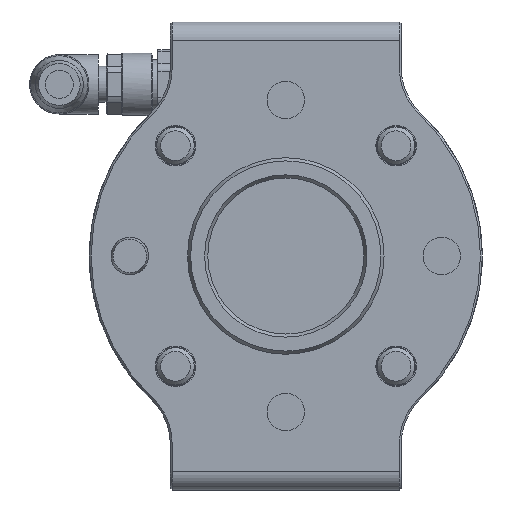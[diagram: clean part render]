
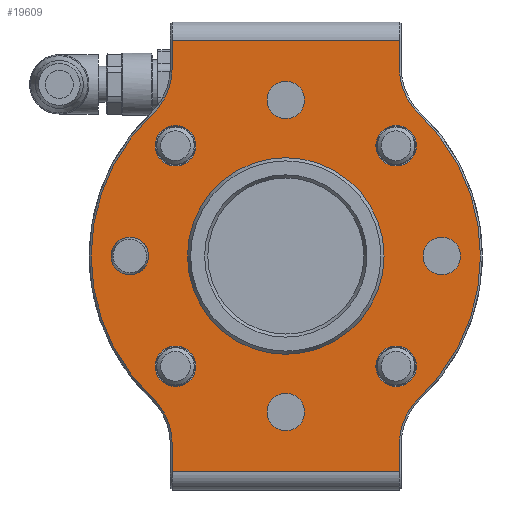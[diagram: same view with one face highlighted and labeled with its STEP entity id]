
A CAD part, left-side view. The second image highlights one B-rep face of the part: STEP entity #19609.
In plain terms, the highlighted planar face has unit normal (-1, 0, 0) as drawn and (0, 0, -1) by its records, which use the part's own axes.
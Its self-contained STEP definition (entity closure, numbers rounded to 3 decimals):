
#18860=CARTESIAN_POINT('',(-34.5,18.2,-11.0));
#18861=VERTEX_POINT('',#18860);
#18893=CARTESIAN_POINT('',(-30.166,18.2,-11.0));
#18894=VERTEX_POINT('',#18893);
#18901=CARTESIAN_POINT('',(-30.166,18.2,-11.0));
#18902=DIRECTION('',(-1.0,0.0,0.0));
#18903=VECTOR('',#18902,4.334);
#18904=LINE('',#18901,#18903);
#18905=EDGE_CURVE('',#18894,#18861,#18904,.T.);
#18922=CARTESIAN_POINT('',(-22.679,21.427,-11.0));
#18923=VERTEX_POINT('',#18922);
#18930=CARTESIAN_POINT('',(-30.166,28.5,-11.0));
#18931=DIRECTION('',(0.0,0.0,-1.0));
#18932=DIRECTION('',(0.396,-0.918,0.0));
#18933=AXIS2_PLACEMENT_3D('',#18930,#18931,#18932);
#18934=CIRCLE('',#18933,10.3);
#18935=EDGE_CURVE('',#18923,#18894,#18934,.T.);
#18953=CARTESIAN_POINT('',(22.679,21.427,-11.0));
#18954=VERTEX_POINT('',#18953);
#18961=CARTESIAN_POINT('',(0.0,0.0,-11.0));
#18962=DIRECTION('',(0.0,0.0,1.0));
#18963=DIRECTION('',(0.809,0.587,0.0));
#18964=AXIS2_PLACEMENT_3D('',#18961,#18962,#18963);
#18965=CIRCLE('',#18964,31.2);
#18966=EDGE_CURVE('',#18954,#18923,#18965,.T.);
#18980=CARTESIAN_POINT('',(30.166,18.2,-11.0));
#18981=VERTEX_POINT('',#18980);
#18988=CARTESIAN_POINT('',(30.166,28.5,-11.0));
#18989=DIRECTION('',(0.0,0.0,-1.));
#18990=DIRECTION('',(-0.396,-0.918,0.0));
#18991=AXIS2_PLACEMENT_3D('',#18988,#18989,#18990);
#18992=CIRCLE('',#18991,10.3);
#18993=EDGE_CURVE('',#18981,#18954,#18992,.T.);
#19013=CARTESIAN_POINT('',(34.5,18.2,-11.0));
#19014=VERTEX_POINT('',#19013);
#19021=CARTESIAN_POINT('',(34.5,18.2,-11.0));
#19022=DIRECTION('',(-1.0,0.0,0.0));
#19023=VECTOR('',#19022,4.334);
#19024=LINE('',#19021,#19023);
#19025=EDGE_CURVE('',#19014,#18981,#19024,.T.);
#19223=CARTESIAN_POINT('',(-34.5,-18.2,-11.0));
#19224=VERTEX_POINT('',#19223);
#19256=CARTESIAN_POINT('',(-30.166,-18.2,-11.0));
#19257=VERTEX_POINT('',#19256);
#19273=CARTESIAN_POINT('',(-34.5,-18.2,-11.0));
#19274=DIRECTION('',(1.0,0.0,0.0));
#19275=VECTOR('',#19274,4.334);
#19276=LINE('',#19273,#19275);
#19277=EDGE_CURVE('',#19224,#19257,#19276,.T.);
#19287=CARTESIAN_POINT('',(-22.679,-21.427,-11.0));
#19288=VERTEX_POINT('',#19287);
#19303=CARTESIAN_POINT('',(-30.166,-28.5,-11.0));
#19304=DIRECTION('',(0.0,0.0,-1.));
#19305=DIRECTION('',(0.396,0.918,0.0));
#19306=AXIS2_PLACEMENT_3D('',#19303,#19304,#19305);
#19307=CIRCLE('',#19306,10.3);
#19308=EDGE_CURVE('',#19257,#19288,#19307,.T.);
#19318=CARTESIAN_POINT('',(22.679,-21.427,-11.0));
#19319=VERTEX_POINT('',#19318);
#19328=CARTESIAN_POINT('',(0.0,0.0,-11.0));
#19329=DIRECTION('',(0.0,0.0,1.0));
#19330=DIRECTION('',(-0.809,-0.587,0.0));
#19331=AXIS2_PLACEMENT_3D('',#19328,#19329,#19330);
#19332=CIRCLE('',#19331,31.2);
#19333=EDGE_CURVE('',#19288,#19319,#19332,.T.);
#19343=CARTESIAN_POINT('',(30.166,-18.2,-11.0));
#19344=VERTEX_POINT('',#19343);
#19361=CARTESIAN_POINT('',(30.166,-28.5,-11.0));
#19362=DIRECTION('',(0.0,0.0,-1.0));
#19363=DIRECTION('',(-0.396,0.918,0.0));
#19364=AXIS2_PLACEMENT_3D('',#19361,#19362,#19363);
#19365=CIRCLE('',#19364,10.3);
#19366=EDGE_CURVE('',#19319,#19344,#19365,.T.);
#19376=CARTESIAN_POINT('',(34.5,-18.2,-11.0));
#19377=VERTEX_POINT('',#19376);
#19393=CARTESIAN_POINT('',(30.166,-18.2,-11.0));
#19394=DIRECTION('',(1.0,0.0,0.0));
#19395=VECTOR('',#19394,4.334);
#19396=LINE('',#19393,#19395);
#19397=EDGE_CURVE('',#19344,#19377,#19396,.T.);
#19477=CARTESIAN_POINT('',(34.5,-18.2,-11.0));
#19478=DIRECTION('',(0.0,1.0,0.0));
#19479=VECTOR('',#19478,36.4);
#19480=LINE('',#19477,#19479);
#19481=EDGE_CURVE('',#19377,#19014,#19480,.T.);
#19486=CARTESIAN_POINT('',(0.,0.,-11.0));
#19487=DIRECTION('',(0.0,0.0,1.0));
#19488=DIRECTION('',(1.0,0.0,0.0));
#19489=AXIS2_PLACEMENT_3D('',#19486,#19487,#19488);
#19490=PLANE('',#19489);
#19491=ORIENTED_EDGE('',*,*,#19025,.F.);
#19492=ORIENTED_EDGE('',*,*,#19481,.F.);
#19493=ORIENTED_EDGE('',*,*,#19397,.F.);
#19494=ORIENTED_EDGE('',*,*,#19366,.F.);
#19495=ORIENTED_EDGE('',*,*,#19333,.F.);
#19496=ORIENTED_EDGE('',*,*,#19308,.F.);
#19497=ORIENTED_EDGE('',*,*,#19277,.F.);
#19498=CARTESIAN_POINT('',(-34.5,18.2,-11.0));
#19499=DIRECTION('',(0.0,-1.0,0.0));
#19500=VECTOR('',#19499,36.4);
#19501=LINE('',#19498,#19500);
#19502=EDGE_CURVE('',#18861,#19224,#19501,.T.);
#19503=ORIENTED_EDGE('',*,*,#19502,.F.);
#19504=ORIENTED_EDGE('',*,*,#18905,.F.);
#19505=ORIENTED_EDGE('',*,*,#18935,.F.);
#19506=ORIENTED_EDGE('',*,*,#18966,.F.);
#19507=ORIENTED_EDGE('',*,*,#18993,.F.);
#19508=EDGE_LOOP('',(#19491,#19492,#19493,#19494,#19495,#19496,#19497,#19503,#19504,#19505,#19506,#19507));
#19509=FACE_OUTER_BOUND('',#19508,.T.);
#19510=CARTESIAN_POINT('',(-15.75,0.,-11.0));
#19511=VERTEX_POINT('',#19510);
#19512=CARTESIAN_POINT('',(0.0,0.0,-11.0));
#19513=DIRECTION('',(0.0,0.0,1.0));
#19514=DIRECTION('',(1.0,0.0,0.0));
#19515=AXIS2_PLACEMENT_3D('',#19512,#19513,#19514);
#19516=CIRCLE('',#19515,15.75);
#19517=EDGE_CURVE('',#19511,#19511,#19516,.T.);
#19518=ORIENTED_EDGE('',*,*,#19517,.T.);
#19519=EDGE_LOOP('',(#19518));
#19520=FACE_BOUND('',#19519,.T.);
#19521=CARTESIAN_POINT('',(-3.,-25.0,-11.0));
#19522=VERTEX_POINT('',#19521);
#19523=CARTESIAN_POINT('',(0.0,-25.0,-11.0));
#19524=DIRECTION('',(0.0,0.0,1.0));
#19525=DIRECTION('',(-1.0,0.0,0.0));
#19526=AXIS2_PLACEMENT_3D('',#19523,#19524,#19525);
#19527=CIRCLE('',#19526,3.);
#19528=EDGE_CURVE('',#19522,#19522,#19527,.T.);
#19529=ORIENTED_EDGE('',*,*,#19528,.T.);
#19530=EDGE_LOOP('',(#19529));
#19531=FACE_BOUND('',#19530,.T.);
#19532=CARTESIAN_POINT('',(22.0,0.0,-11.0));
#19533=VERTEX_POINT('',#19532);
#19534=CARTESIAN_POINT('',(25.0,0.0,-11.0));
#19535=DIRECTION('',(0.0,0.0,1.0));
#19536=DIRECTION('',(-1.0,0.0,0.0));
#19537=AXIS2_PLACEMENT_3D('',#19534,#19535,#19536);
#19538=CIRCLE('',#19537,3.);
#19539=EDGE_CURVE('',#19533,#19533,#19538,.T.);
#19540=ORIENTED_EDGE('',*,*,#19539,.T.);
#19541=EDGE_LOOP('',(#19540));
#19542=FACE_BOUND('',#19541,.T.);
#19543=CARTESIAN_POINT('',(-3.,25.0,-11.0));
#19544=VERTEX_POINT('',#19543);
#19545=CARTESIAN_POINT('',(0.0,25.0,-11.0));
#19546=DIRECTION('',(0.0,0.0,1.0));
#19547=DIRECTION('',(-1.0,0.0,0.0));
#19548=AXIS2_PLACEMENT_3D('',#19545,#19546,#19547);
#19549=CIRCLE('',#19548,3.);
#19550=EDGE_CURVE('',#19544,#19544,#19549,.T.);
#19551=ORIENTED_EDGE('',*,*,#19550,.T.);
#19552=EDGE_LOOP('',(#19551));
#19553=FACE_BOUND('',#19552,.T.);
#19554=CARTESIAN_POINT('',(-28.0,0.0,-11.0));
#19555=VERTEX_POINT('',#19554);
#19556=CARTESIAN_POINT('',(-25.0,0.0,-11.0));
#19557=DIRECTION('',(0.0,0.0,1.0));
#19558=DIRECTION('',(-1.0,0.0,0.0));
#19559=AXIS2_PLACEMENT_3D('',#19556,#19557,#19558);
#19560=CIRCLE('',#19559,3.);
#19561=EDGE_CURVE('',#19555,#19555,#19560,.T.);
#19562=ORIENTED_EDGE('',*,*,#19561,.T.);
#19563=EDGE_LOOP('',(#19562));
#19564=FACE_BOUND('',#19563,.T.);
#19565=CARTESIAN_POINT('',(-20.928,17.678,-11.));
#19566=VERTEX_POINT('',#19565);
#19567=CARTESIAN_POINT('',(-17.678,17.678,-11.));
#19568=DIRECTION('',(0.0,0.0,1.0));
#19569=DIRECTION('',(1.0,0.0,0.0));
#19570=AXIS2_PLACEMENT_3D('',#19567,#19568,#19569);
#19571=CIRCLE('',#19570,3.25);
#19572=EDGE_CURVE('',#19566,#19566,#19571,.T.);
#19573=ORIENTED_EDGE('',*,*,#19572,.T.);
#19574=EDGE_LOOP('',(#19573));
#19575=FACE_BOUND('',#19574,.T.);
#19576=CARTESIAN_POINT('',(14.428,17.678,-11.));
#19577=VERTEX_POINT('',#19576);
#19578=CARTESIAN_POINT('',(17.678,17.678,-11.));
#19579=DIRECTION('',(0.0,0.0,1.0));
#19580=DIRECTION('',(1.0,0.0,0.0));
#19581=AXIS2_PLACEMENT_3D('',#19578,#19579,#19580);
#19582=CIRCLE('',#19581,3.25);
#19583=EDGE_CURVE('',#19577,#19577,#19582,.T.);
#19584=ORIENTED_EDGE('',*,*,#19583,.T.);
#19585=EDGE_LOOP('',(#19584));
#19586=FACE_BOUND('',#19585,.T.);
#19587=CARTESIAN_POINT('',(14.428,-17.678,-11.));
#19588=VERTEX_POINT('',#19587);
#19589=CARTESIAN_POINT('',(17.678,-17.678,-11.));
#19590=DIRECTION('',(0.0,0.0,1.0));
#19591=DIRECTION('',(1.0,0.0,0.0));
#19592=AXIS2_PLACEMENT_3D('',#19589,#19590,#19591);
#19593=CIRCLE('',#19592,3.25);
#19594=EDGE_CURVE('',#19588,#19588,#19593,.T.);
#19595=ORIENTED_EDGE('',*,*,#19594,.T.);
#19596=EDGE_LOOP('',(#19595));
#19597=FACE_BOUND('',#19596,.T.);
#19598=CARTESIAN_POINT('',(-20.928,-17.678,-11.));
#19599=VERTEX_POINT('',#19598);
#19600=CARTESIAN_POINT('',(-17.678,-17.678,-11.));
#19601=DIRECTION('',(0.0,0.0,1.0));
#19602=DIRECTION('',(1.0,0.0,0.0));
#19603=AXIS2_PLACEMENT_3D('',#19600,#19601,#19602);
#19604=CIRCLE('',#19603,3.25);
#19605=EDGE_CURVE('',#19599,#19599,#19604,.T.);
#19606=ORIENTED_EDGE('',*,*,#19605,.T.);
#19607=EDGE_LOOP('',(#19606));
#19608=FACE_BOUND('',#19607,.T.);
#19609=ADVANCED_FACE('',(#19509,#19520,#19531,#19542,#19553,#19564,#19575,#19586,#19597,#19608),#19490,.F.);
